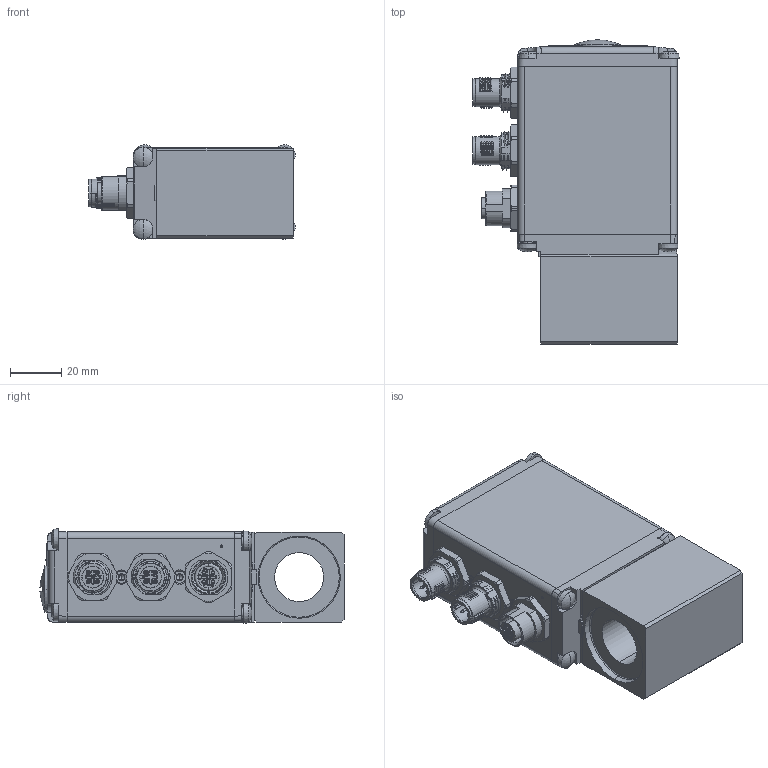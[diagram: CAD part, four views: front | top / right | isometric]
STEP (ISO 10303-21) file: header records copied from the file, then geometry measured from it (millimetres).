
FILE_DESCRIPTION (( 'STEP AP214' ), '1' );
FILE_NAME ('ME35_19x50-...C.R.STEP', '2014-04-03T06:57:02', ( '' ), ( '' ), 'SwSTEP 2.0', 'SolidWorks 2012', '' );
FILE_SCHEMA (( 'AUTOMOTIVE_DESIGN' ));
Length unit declared in the file: millimetre
Products named in the file (1): ME35_19x50-...C.R
Bounding box: 80.3 x 118.39 x 36.78 mm (x, y, z)
Volume: 137388.2 mm3; surface area: 53711.9 mm2
Topology: 4 solids, 4 shells, 2890 faces, 7916 edges, 5127 vertices
Faces by surface type: plane 1540, cylinder 793, torus 234, cone 168, bspline 123, sphere 32
Entity records: 104910 total; most frequent: CARTESIAN_POINT 28445, ORIENTED_EDGE 15800, DIRECTION 13910, EDGE_CURVE 7900, VERTEX_POINT 5127, VECTOR 4976, LINE 4976, AXIS2_PLACEMENT_3D 4467
